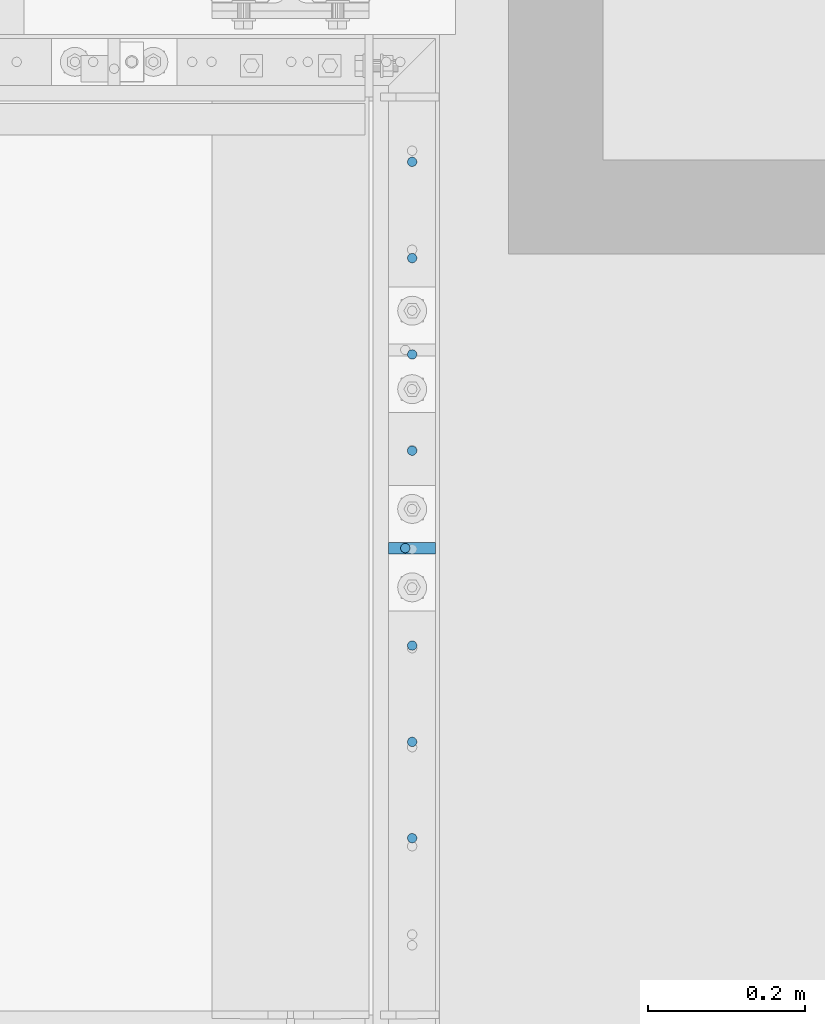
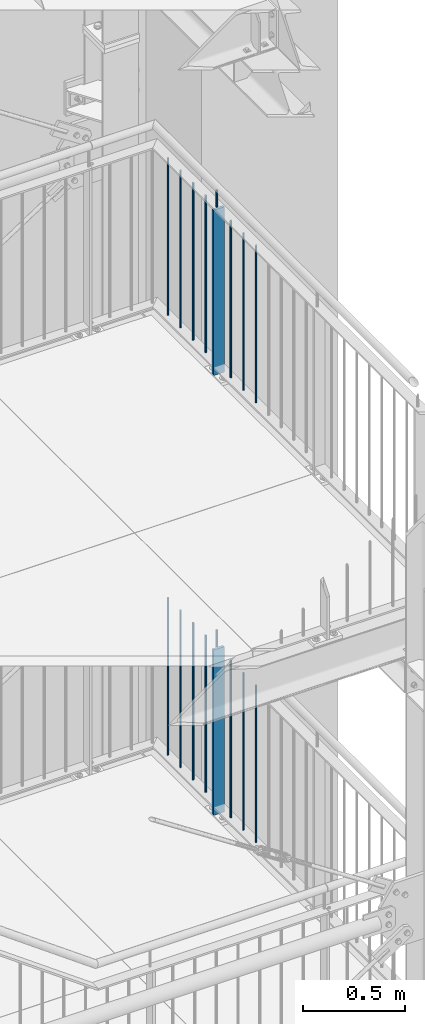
# One storey, part 102 of 825: 18 columns.
"""IFC2X3 building model written with IfcOpenShell, lengths in millimetres."""

from ifc_helpers import new_model, entity, si_unit, converted_unit, frame, origin, origin_with_axes, origin_2d, place, context, project, spatial, rectangle, circle, extrude, clip, halfspace, material, element, save


model = new_model("IFC2X3")

# Units and contexts
model_context = context("Model", 3, precision=1e-09, world=origin_with_axes())
ifc_project = project(units=[si_unit("LENGTHUNIT", "METRE", prefix="MILLI"), si_unit("AREAUNIT", "SQUARE_METRE"), si_unit("VOLUMEUNIT", "CUBIC_METRE"), converted_unit("PLANEANGLEUNIT", "DEGREE", entity("IfcPlaneAngleMeasure", 0.01745329), si_unit("PLANEANGLEUNIT", "RADIAN"), dimensions=[0, 0, 0, 0, 0, 0, 0])], contexts=[model_context])

# Site, building, storey
site_placement = place(None, origin_with_axes())
site = spatial("IfcSite", under=ifc_project, at=site_placement, Name="Cnopf'sche Kinderklinik", CompositionType="ELEMENT")
building_placement = place(site_placement, origin_with_axes())
building = spatial("IfcBuilding", under=site, at=building_placement, Name="Struktur 1", CompositionType="ELEMENT")
storey_placement = place(building_placement, origin_with_axes())
storey = spatial("IfcBuildingStorey", under=building, at=storey_placement, Name="Default Storey", CompositionType="ELEMENT", Elevation=0.0)

# Columns
ifc_material = material(Name="S235JR")
column_1_placement = place(None, frame((9021.713402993, 6736.736257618, 9675.723292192), z_axis=(0.0, 0.0, 1.0), x_axis=(0.0, -1.0, 0.0)))
element("IfcColumn", 1, at=column_1_placement, inside=storey, material=ifc_material, Name="Railing_Post_Landing#5", ObjectType="Railing_Post_Landing#5", context=model_context, shape_type="Clipping", body=[
    clip(clip(extrude(rectangle(XDim=15.0, YDim=60.0, at=origin_2d()), origin(), (0.0, 0.0, -1.0), 1070.646584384), halfspace(frame((6736.736257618, -9021.713402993, -1019.722292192), z_axis=(0.0, 0.0, 1.0), x_axis=(0.0, 1.0, 0.0)), True)), halfspace(frame((6736.736257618, -9021.713402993, -30.924292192), z_axis=(0.0, 0.0, -1.0), x_axis=(0.0, -1.0, 0.0)), True)),
])
column_2_placement = place(None, frame((9021.713402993, 7229.236329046, 9658.285281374), z_axis=(0.0, 0.0, 1.0), x_axis=(0.0, -1.0, 0.0)))
element("IfcColumn", 2, at=column_2_placement, inside=storey, material=ifc_material, Name="Railing_Picket_Landing#31", ObjectType="Railing_Picket_Landing#31", context=model_context, shape_type="Clipping", body=[
    clip(clip(extrude(circle(Radius=6.0, at=origin_2d()), origin(), (0.0, 0.0, -1.0), 965.770562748), halfspace(frame((7229.236329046, -9021.713402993, -13.486281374), z_axis=(0.0, 0.0, -1.0), x_axis=(0.0, -1.0, 0.0)), True)), halfspace(frame((7229.236329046, -9021.713402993, -952.284281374), z_axis=(0.0, 0.0, 1.0), x_axis=(0.0, 1.0, 0.0)), True)),
])
column_3_placement = place(None, frame((9021.713402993, 7106.486305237, 9658.285281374), z_axis=(0.0, 0.0, 1.0), x_axis=(0.0, -1.0, 0.0)))
element("IfcColumn", 3, at=column_3_placement, inside=storey, material=ifc_material, Name="Railing_Picket_Landing#32", ObjectType="Railing_Picket_Landing#32", context=model_context, shape_type="Clipping", body=[
    clip(clip(extrude(circle(Radius=6.0, at=origin_2d()), origin(), (0.0, 0.0, -1.0), 965.770562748), halfspace(frame((7106.486305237, -9021.713402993, -13.486281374), z_axis=(0.0, 0.0, -1.0), x_axis=(0.0, -1.0, 0.0)), True)), halfspace(frame((7106.486305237, -9021.713402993, -952.284281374), z_axis=(0.0, 0.0, 1.0), x_axis=(0.0, 1.0, 0.0)), True)),
])
column_4_placement = place(None, frame((9021.713402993, 6983.736281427, 9658.285281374), z_axis=(0.0, 0.0, 1.0), x_axis=(0.0, -1.0, 0.0)))
element("IfcColumn", 4, at=column_4_placement, inside=storey, material=ifc_material, Name="Railing_Picket_Landing#33", ObjectType="Railing_Picket_Landing#33", context=model_context, shape_type="Clipping", body=[
    clip(clip(extrude(circle(Radius=6.0, at=origin_2d()), origin(), (0.0, 0.0, -1.0), 965.770562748), halfspace(frame((6983.736281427, -9021.713402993, -13.486281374), z_axis=(0.0, 0.0, -1.0), x_axis=(0.0, -1.0, 0.0)), True)), halfspace(frame((6983.736281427, -9021.713402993, -952.284281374), z_axis=(0.0, 0.0, 1.0), x_axis=(0.0, 1.0, 0.0)), True)),
])
column_5_placement = place(None, frame((9021.713402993, 6860.986257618, 9658.285281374), z_axis=(0.0, 0.0, 1.0), x_axis=(0.0, -1.0, 0.0)))
element("IfcColumn", 5, at=column_5_placement, inside=storey, material=ifc_material, Name="Railing_Picket_Landing#34", ObjectType="Railing_Picket_Landing#34", context=model_context, shape_type="Clipping", body=[
    clip(clip(extrude(circle(Radius=6.0, at=origin_2d()), origin(), (0.0, 0.0, -1.0), 965.770562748), halfspace(frame((6860.986257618, -9021.713402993, -13.486281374), z_axis=(0.0, 0.0, -1.0), x_axis=(0.0, -1.0, 0.0)), True)), halfspace(frame((6860.986257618, -9021.713402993, -952.284281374), z_axis=(0.0, 0.0, 1.0), x_axis=(0.0, 1.0, 0.0)), True)),
])
column_6_placement = place(None, frame((9021.713402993, 6612.486257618, 9658.285281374), z_axis=(0.0, 0.0, 1.0), x_axis=(0.0, -1.0, 0.0)))
element("IfcColumn", 6, at=column_6_placement, inside=storey, material=ifc_material, Name="Railing_Picket_Landing#35", ObjectType="Railing_Picket_Landing#35", context=model_context, shape_type="Clipping", body=[
    clip(clip(extrude(circle(Radius=6.0, at=origin_2d()), origin(), (0.0, 0.0, -1.0), 965.770562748), halfspace(frame((6612.486257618, -9021.713402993, -13.486281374), z_axis=(0.0, 0.0, -1.0), x_axis=(0.0, -1.0, 0.0)), True)), halfspace(frame((6612.486257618, -9021.713402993, -952.284281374), z_axis=(0.0, 0.0, 1.0), x_axis=(0.0, 1.0, 0.0)), True)),
])
column_7_placement = place(None, frame((9021.713402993, 6489.736233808, 9658.285281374), z_axis=(0.0, 0.0, 1.0), x_axis=(0.0, -1.0, 0.0)))
element("IfcColumn", 7, at=column_7_placement, inside=storey, material=ifc_material, Name="Railing_Picket_Landing#36", ObjectType="Railing_Picket_Landing#36", context=model_context, shape_type="Clipping", body=[
    clip(clip(extrude(circle(Radius=6.0, at=origin_2d()), origin(), (0.0, 0.0, -1.0), 965.770562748), halfspace(frame((6489.736233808, -9021.713402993, -13.486281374), z_axis=(0.0, 0.0, -1.0), x_axis=(0.0, -1.0, 0.0)), True)), halfspace(frame((6489.736233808, -9021.713402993, -952.284281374), z_axis=(0.0, 0.0, 1.0), x_axis=(0.0, 1.0, 0.0)), True)),
])
column_8_placement = place(None, frame((9021.713402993, 6366.986209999, 9658.285281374), z_axis=(0.0, 0.0, 1.0), x_axis=(0.0, -1.0, 0.0)))
element("IfcColumn", 8, at=column_8_placement, inside=storey, material=ifc_material, Name="Railing_Picket_Landing#37", ObjectType="Railing_Picket_Landing#37", context=model_context, shape_type="Clipping", body=[
    clip(clip(extrude(circle(Radius=6.0, at=origin_2d()), origin(), (0.0, 0.0, -1.0), 965.770562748), halfspace(frame((6366.986209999, -9021.713402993, -13.486281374), z_axis=(0.0, 0.0, -1.0), x_axis=(0.0, -1.0, 0.0)), True)), halfspace(frame((6366.986209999, -9021.713402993, -952.284281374), z_axis=(0.0, 0.0, 1.0), x_axis=(0.0, 1.0, 0.0)), True)),
])
column_9_placement = place(None, frame((9012.913402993, 6736.736257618, 9763.285281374), z_axis=(0.0, 0.0, 1.0), x_axis=(-1.0, 0.0, 0.0)))
element("IfcColumn", 9, at=column_9_placement, inside=storey, material=ifc_material, Name="Bar#5", ObjectType="Bar#5", context=model_context, shape_type="Clipping", body=[
    clip(clip(extrude(circle(Radius=6.0, at=origin_2d()), origin(), (0.0, 0.0, -1.0), 116.970562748), halfspace(frame((9012.913402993, 6736.736257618, -8.486281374), z_axis=(0.0, 0.0, -1.0), x_axis=(1.0, 0.0, 0.0)), True)), halfspace(frame((9012.913402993, 6736.736257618, -108.484281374), z_axis=(0.0, 0.0, 1.0), x_axis=(-1.0, 0.0, 0.0)), True)),
])
column_10_placement = place(None, frame((9021.713402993, 6736.736257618, 12305.223292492), z_axis=(0.0, 0.0, 1.0), x_axis=(0.0, -1.0, 0.0)))
element("IfcColumn", 10, at=column_10_placement, inside=storey, material=ifc_material, Name="Railing_Post_Landing#5", ObjectType="Railing_Post_Landing#5", context=model_context, shape_type="Clipping", body=[
    clip(clip(extrude(rectangle(XDim=15.0, YDim=60.0, at=origin_2d()), origin(), (0.0, 0.0, -1.0), 1070.646584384), halfspace(frame((6736.736257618, -9021.713402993, -1019.722292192), z_axis=(0.0, 0.0, 1.0), x_axis=(0.0, 1.0, 0.0)), True)), halfspace(frame((6736.736257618, -9021.713402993, -30.924292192), z_axis=(0.0, 0.0, -1.0), x_axis=(0.0, -1.0, 0.0)), True)),
])
column_11_placement = place(None, frame((9021.713402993, 7229.236329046, 12287.785281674), z_axis=(0.0, 0.0, 1.0), x_axis=(0.0, -1.0, 0.0)))
element("IfcColumn", 11, at=column_11_placement, inside=storey, material=ifc_material, Name="Railing_Picket_Landing#31", ObjectType="Railing_Picket_Landing#31", context=model_context, shape_type="Clipping", body=[
    clip(clip(extrude(circle(Radius=6.0, at=origin_2d()), origin(), (0.0, 0.0, -1.0), 965.770562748), halfspace(frame((7229.236329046, -9021.713402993, -13.486281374), z_axis=(0.0, 0.0, -1.0), x_axis=(0.0, -1.0, 0.0)), True)), halfspace(frame((7229.236329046, -9021.713402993, -952.284281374), z_axis=(0.0, 0.0, 1.0), x_axis=(0.0, 1.0, 0.0)), True)),
])
column_12_placement = place(None, frame((9021.713402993, 7106.486305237, 12287.785281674), z_axis=(0.0, 0.0, 1.0), x_axis=(0.0, -1.0, 0.0)))
element("IfcColumn", 12, at=column_12_placement, inside=storey, material=ifc_material, Name="Railing_Picket_Landing#32", ObjectType="Railing_Picket_Landing#32", context=model_context, shape_type="Clipping", body=[
    clip(clip(extrude(circle(Radius=6.0, at=origin_2d()), origin(), (0.0, 0.0, -1.0), 965.770562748), halfspace(frame((7106.486305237, -9021.713402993, -13.486281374), z_axis=(0.0, 0.0, -1.0), x_axis=(0.0, -1.0, 0.0)), True)), halfspace(frame((7106.486305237, -9021.713402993, -952.284281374), z_axis=(0.0, 0.0, 1.0), x_axis=(0.0, 1.0, 0.0)), True)),
])
column_13_placement = place(None, frame((9021.713402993, 6983.736281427, 12287.785281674), z_axis=(0.0, 0.0, 1.0), x_axis=(0.0, -1.0, 0.0)))
element("IfcColumn", 13, at=column_13_placement, inside=storey, material=ifc_material, Name="Railing_Picket_Landing#33", ObjectType="Railing_Picket_Landing#33", context=model_context, shape_type="Clipping", body=[
    clip(clip(extrude(circle(Radius=6.0, at=origin_2d()), origin(), (0.0, 0.0, -1.0), 965.770562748), halfspace(frame((6983.736281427, -9021.713402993, -13.486281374), z_axis=(0.0, 0.0, -1.0), x_axis=(0.0, -1.0, 0.0)), True)), halfspace(frame((6983.736281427, -9021.713402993, -952.284281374), z_axis=(0.0, 0.0, 1.0), x_axis=(0.0, 1.0, 0.0)), True)),
])
column_14_placement = place(None, frame((9021.713402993, 6860.986257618, 12287.785281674), z_axis=(0.0, 0.0, 1.0), x_axis=(0.0, -1.0, 0.0)))
element("IfcColumn", 14, at=column_14_placement, inside=storey, material=ifc_material, Name="Railing_Picket_Landing#34", ObjectType="Railing_Picket_Landing#34", context=model_context, shape_type="Clipping", body=[
    clip(clip(extrude(circle(Radius=6.0, at=origin_2d()), origin(), (0.0, 0.0, -1.0), 965.770562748), halfspace(frame((6860.986257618, -9021.713402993, -13.486281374), z_axis=(0.0, 0.0, -1.0), x_axis=(0.0, -1.0, 0.0)), True)), halfspace(frame((6860.986257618, -9021.713402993, -952.284281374), z_axis=(0.0, 0.0, 1.0), x_axis=(0.0, 1.0, 0.0)), True)),
])
column_15_placement = place(None, frame((9021.713402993, 6612.486257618, 12287.785281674), z_axis=(0.0, 0.0, 1.0), x_axis=(0.0, -1.0, 0.0)))
element("IfcColumn", 15, at=column_15_placement, inside=storey, material=ifc_material, Name="Railing_Picket_Landing#35", ObjectType="Railing_Picket_Landing#35", context=model_context, shape_type="Clipping", body=[
    clip(clip(extrude(circle(Radius=6.0, at=origin_2d()), origin(), (0.0, 0.0, -1.0), 965.770562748), halfspace(frame((6612.486257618, -9021.713402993, -13.486281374), z_axis=(0.0, 0.0, -1.0), x_axis=(0.0, -1.0, 0.0)), True)), halfspace(frame((6612.486257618, -9021.713402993, -952.284281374), z_axis=(0.0, 0.0, 1.0), x_axis=(0.0, 1.0, 0.0)), True)),
])
column_16_placement = place(None, frame((9021.713402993, 6489.736233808, 12287.785281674), z_axis=(0.0, 0.0, 1.0), x_axis=(0.0, -1.0, 0.0)))
element("IfcColumn", 16, at=column_16_placement, inside=storey, material=ifc_material, Name="Railing_Picket_Landing#36", ObjectType="Railing_Picket_Landing#36", context=model_context, shape_type="Clipping", body=[
    clip(clip(extrude(circle(Radius=6.0, at=origin_2d()), origin(), (0.0, 0.0, -1.0), 965.770562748), halfspace(frame((6489.736233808, -9021.713402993, -13.486281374), z_axis=(0.0, 0.0, -1.0), x_axis=(0.0, -1.0, 0.0)), True)), halfspace(frame((6489.736233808, -9021.713402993, -952.284281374), z_axis=(0.0, 0.0, 1.0), x_axis=(0.0, 1.0, 0.0)), True)),
])
column_17_placement = place(None, frame((9021.713402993, 6366.986209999, 12287.785281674), z_axis=(0.0, 0.0, 1.0), x_axis=(0.0, -1.0, 0.0)))
element("IfcColumn", 17, at=column_17_placement, inside=storey, material=ifc_material, Name="Railing_Picket_Landing#37", ObjectType="Railing_Picket_Landing#37", context=model_context, shape_type="Clipping", body=[
    clip(clip(extrude(circle(Radius=6.0, at=origin_2d()), origin(), (0.0, 0.0, -1.0), 965.770562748), halfspace(frame((6366.986209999, -9021.713402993, -13.486281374), z_axis=(0.0, 0.0, -1.0), x_axis=(0.0, -1.0, 0.0)), True)), halfspace(frame((6366.986209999, -9021.713402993, -952.284281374), z_axis=(0.0, 0.0, 1.0), x_axis=(0.0, 1.0, 0.0)), True)),
])
column_18_placement = place(None, frame((9012.913402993, 6736.736257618, 12392.785281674), z_axis=(0.0, 0.0, 1.0), x_axis=(-1.0, 0.0, 0.0)))
element("IfcColumn", 18, at=column_18_placement, inside=storey, material=ifc_material, Name="Bar#5", ObjectType="Bar#5", context=model_context, shape_type="Clipping", body=[
    clip(clip(extrude(circle(Radius=6.0, at=origin_2d()), origin(), (0.0, 0.0, -1.0), 116.970562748), halfspace(frame((9012.913402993, 6736.736257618, -8.486281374), z_axis=(0.0, 0.0, -1.0), x_axis=(1.0, 0.0, 0.0)), True)), halfspace(frame((9012.913402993, 6736.736257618, -108.484281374), z_axis=(0.0, 0.0, 1.0), x_axis=(-1.0, 0.0, 0.0)), True)),
])

save(model, "model.ifc")
